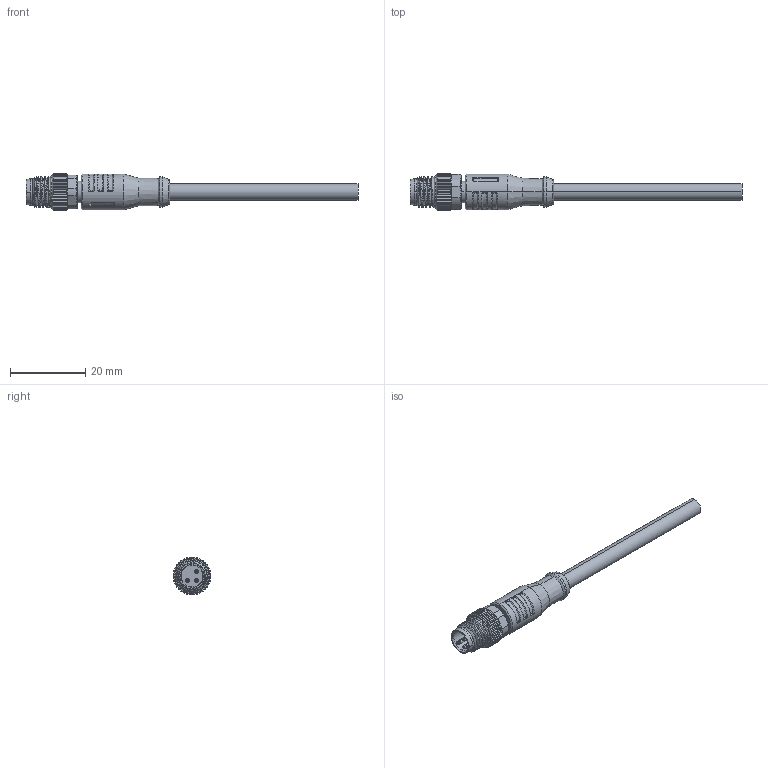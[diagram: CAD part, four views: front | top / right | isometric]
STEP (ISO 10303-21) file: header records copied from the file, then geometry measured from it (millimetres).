
FILE_DESCRIPTION (( 'STEP AP203' ), '1' );
FILE_NAME ('63S003.STEP', '2023-07-18T08:23:47', ( '' ), ( '' ), 'SwSTEP 2.0', 'SolidWorks 2016', '' );
FILE_SCHEMA (( 'CONFIG_CONTROL_DESIGN' ));
Length unit declared in the file: millimetre
Products named in the file (1): 63S003
Bounding box: 88.1 x 9.99 x 9.99 mm (x, y, z)
Volume: 2757.6 mm3; surface area: 2757.3 mm2
Topology: 1 solids, 1 shells, 681 faces, 1896 edges, 1219 vertices
Faces by surface type: plane 273, cylinder 159, cone 109, bspline 91, torus 49
Entity records: 27700 total; most frequent: CARTESIAN_POINT 12260, ORIENTED_EDGE 3780, DIRECTION 2410, EDGE_CURVE 1890, VERTEX_POINT 1219, B_SPLINE_CURVE_WITH_KNOTS 968, AXIS2_PLACEMENT_3D 915, EDGE_LOOP 701
